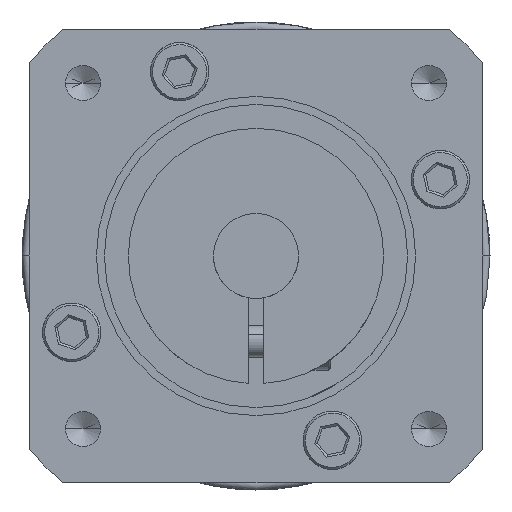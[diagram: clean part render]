
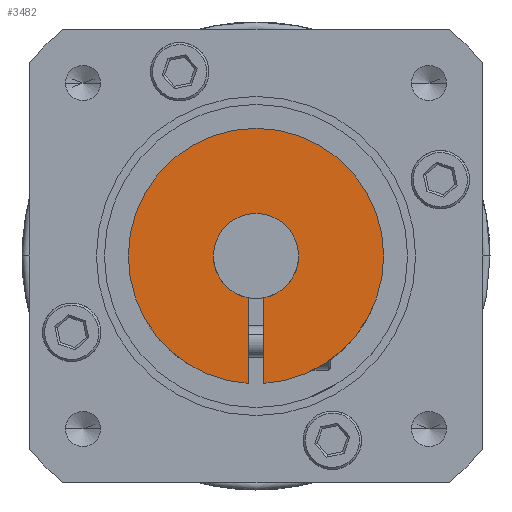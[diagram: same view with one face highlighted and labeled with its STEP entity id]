
A CAD part, front view. The second image highlights one B-rep face of the part: STEP entity #3482.
In plain terms, the highlighted planar face has unit normal (0, -1, 0).
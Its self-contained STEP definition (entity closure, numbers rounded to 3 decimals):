
#1897 = ORIENTED_EDGE ( 'NONE', *, *, #12455, .T. ) ;
#1898 = ORIENTED_EDGE ( 'NONE', *, *, #12204, .F. ) ;
#1908 = ORIENTED_EDGE ( 'NONE', *, *, #12401, .T. ) ;
#1910 = ORIENTED_EDGE ( 'NONE', *, *, #1911, .F. ) ;
#1911 = EDGE_CURVE ( 'NONE', #12276, #12409, #12923, .T. ) ;
#1912 = ORIENTED_EDGE ( 'NONE', *, *, #1920, .F. ) ;
#1914 = ORIENTED_EDGE ( 'NONE', *, *, #12437, .T. ) ;
#1920 = EDGE_CURVE ( 'NONE', #12211, #12226, #12864, .T. ) ;
#1921 = ORIENTED_EDGE ( 'NONE', *, *, #12199, .F. ) ;
#3370 = ORIENTED_EDGE ( 'NONE', *, *, #3455, .F. ) ;
#3405 = EDGE_LOOP ( 'NONE', ( #3370, #1914, #1908, #1897, #1910, #1921, #1912, #1898 ) ) ;
#3455 = EDGE_CURVE ( 'NONE', #12447, #12224, #6066, .T. ) ;
#3482 = ADVANCED_FACE ( 'NONE', ( #6005 ), #6065, .T. ) ;
#5678 = CARTESIAN_POINT ( 'NONE',  ( 0., 0., 12. ) ) ;
#5989 = DIRECTION ( 'NONE',  ( 0., -1., 0. ) ) ;
#5990 = CARTESIAN_POINT ( 'NONE',  ( 0., 0., 0. ) ) ;
#6003 = VECTOR ( 'NONE', #6044, 1000. ) ;
#6005 = FACE_OUTER_BOUND ( 'NONE', #3405, .T. ) ;
#6015 = DIRECTION ( 'NONE',  ( 0., 0., -1. ) ) ;
#6021 = AXIS2_PLACEMENT_3D ( 'NONE', #5990, #5989, #6015 ) ;
#6041 = CARTESIAN_POINT ( 'NONE',  ( -3.244, 0., -0.75 ) ) ;
#6044 = DIRECTION ( 'NONE',  ( 1., 0., 0. ) ) ;
#6065 = PLANE ( 'NONE',  #6021 ) ;
#6066 = LINE ( 'NONE', #6041, #6003 ) ;
#7323 = CARTESIAN_POINT ( 'NONE',  ( -3.929, 0., -0.75 ) ) ;
#7347 = CARTESIAN_POINT ( 'NONE',  ( 0., 0., 4. ) ) ;
#7407 = CARTESIAN_POINT ( 'NONE',  ( -3.929, 0., 0.75 ) ) ;
#8077 = CIRCLE ( 'NONE', #8079, 12. ) ;
#8079 = AXIS2_PLACEMENT_3D ( 'NONE', #8081, #8080, #8082 ) ;
#8080 = DIRECTION ( 'NONE',  ( 0., -1., 0. ) ) ;
#8081 = CARTESIAN_POINT ( 'NONE',  ( 0., 0., 0. ) ) ;
#8082 = DIRECTION ( 'NONE',  ( 0., 0., -1. ) ) ;
#8099 = CARTESIAN_POINT ( 'NONE',  ( -11.977, 0., 0.75 ) ) ;
#8104 = CARTESIAN_POINT ( 'NONE',  ( 0., 0., -12. ) ) ;
#8115 = CIRCLE ( 'NONE', #8170, 12. ) ;
#8157 = DIRECTION ( 'NONE',  ( 0., 0., -1. ) ) ;
#8158 = DIRECTION ( 'NONE',  ( 0., -1., 0. ) ) ;
#8159 = CARTESIAN_POINT ( 'NONE',  ( 0., 0., 0. ) ) ;
#8170 = AXIS2_PLACEMENT_3D ( 'NONE', #8159, #8158, #8157 ) ;
#8193 = CIRCLE ( 'NONE', #8225, 12. ) ;
#8198 = CARTESIAN_POINT ( 'NONE',  ( -11.977, 0., -0.75 ) ) ;
#8223 = DIRECTION ( 'NONE',  ( 0., 0., -1. ) ) ;
#8224 = DIRECTION ( 'NONE',  ( 0., -1., 0. ) ) ;
#8225 = AXIS2_PLACEMENT_3D ( 'NONE', #8230, #8224, #8223 ) ;
#8230 = CARTESIAN_POINT ( 'NONE',  ( 0., 0., 0. ) ) ;
#12199 = EDGE_CURVE ( 'NONE', #12226, #12276, #13143, .T. ) ;
#12204 = EDGE_CURVE ( 'NONE', #12224, #12211, #13545, .T. ) ;
#12211 = VERTEX_POINT ( 'NONE', #13646 ) ;
#12224 = VERTEX_POINT ( 'NONE', #7323 ) ;
#12226 = VERTEX_POINT ( 'NONE', #7347 ) ;
#12276 = VERTEX_POINT ( 'NONE', #7407 ) ;
#12382 = VERTEX_POINT ( 'NONE', #5678 ) ;
#12401 = EDGE_CURVE ( 'NONE', #12407, #12382, #8077, .T. ) ;
#12407 = VERTEX_POINT ( 'NONE', #8104 ) ;
#12409 = VERTEX_POINT ( 'NONE', #8099 ) ;
#12437 = EDGE_CURVE ( 'NONE', #12447, #12407, #8115, .T. ) ;
#12447 = VERTEX_POINT ( 'NONE', #8198 ) ;
#12455 = EDGE_CURVE ( 'NONE', #12382, #12409, #8193, .T. ) ;
#12829 = DIRECTION ( 'NONE',  ( 0., 0., -1. ) ) ;
#12830 = DIRECTION ( 'NONE',  ( 0., -1., 0. ) ) ;
#12831 = CARTESIAN_POINT ( 'NONE',  ( 0., 0., 0. ) ) ;
#12864 = CIRCLE ( 'NONE', #12868, 4. ) ;
#12868 = AXIS2_PLACEMENT_3D ( 'NONE', #12831, #12830, #12829 ) ;
#12869 = DIRECTION ( 'NONE',  ( -1., 0., 0. ) ) ;
#12870 = VECTOR ( 'NONE', #12869, 1000. ) ;
#12922 = CARTESIAN_POINT ( 'NONE',  ( -3.244, 0., 0.75 ) ) ;
#12923 = LINE ( 'NONE', #12922, #12870 ) ;
#13143 = CIRCLE ( 'NONE', #13149, 4. ) ;
#13146 = CARTESIAN_POINT ( 'NONE',  ( 0., 0., 0. ) ) ;
#13147 = DIRECTION ( 'NONE',  ( 0., 0., -1. ) ) ;
#13148 = DIRECTION ( 'NONE',  ( 0., -1., 0. ) ) ;
#13149 = AXIS2_PLACEMENT_3D ( 'NONE', #13146, #13148, #13147 ) ;
#13545 = CIRCLE ( 'NONE', #13557, 4. ) ;
#13546 = DIRECTION ( 'NONE',  ( 0., -1., 0. ) ) ;
#13551 = CARTESIAN_POINT ( 'NONE',  ( 0., 0., 0. ) ) ;
#13556 = DIRECTION ( 'NONE',  ( 0., 0., -1. ) ) ;
#13557 = AXIS2_PLACEMENT_3D ( 'NONE', #13551, #13546, #13556 ) ;
#13646 = CARTESIAN_POINT ( 'NONE',  ( 0., 0., -4. ) ) ;
